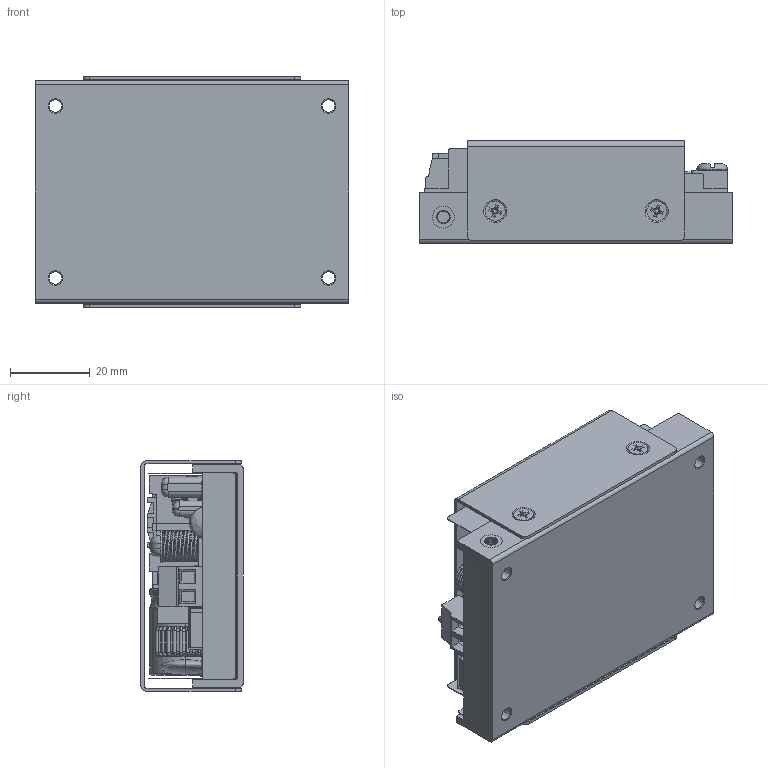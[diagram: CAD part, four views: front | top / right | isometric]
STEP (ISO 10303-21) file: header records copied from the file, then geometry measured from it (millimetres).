
FILE_DESCRIPTION (( 'STEP AP214' ), '1' );
FILE_NAME ('LFM200S(M)XXXC.STEP', '2025-04-10T00:29:48', ( 'cincon' ), ( '' ), 'SwSTEP 2.0', 'SolidWorks 2020', '' );
FILE_SCHEMA (( 'AUTOMOTIVE_DESIGN' ));
Length unit declared in the file: millimetre
Products named in the file (1): LFM200S(M)XXXC
Bounding box: 78.6 x 25.7 x 57.9 mm (x, y, z)
Surface area: 51281.8 mm2 (no closed solid volume)
Topology: 0 solids, 36 shells, 2752 faces, 8105 edges, 5287 vertices
Faces by surface type: cylinder 1034, plane 954, torus 554, bspline 122, cone 65, sphere 23
Entity records: 144435 total; most frequent: CARTESIAN_POINT 40217, ORIENTED_EDGE 16186, DIRECTION 15633, EDGE_CURVE 8097, AXIS2_PLACEMENT_3D 6213, VERTEX_POINT 5287, CIRCLE 3582, LINE 3207
